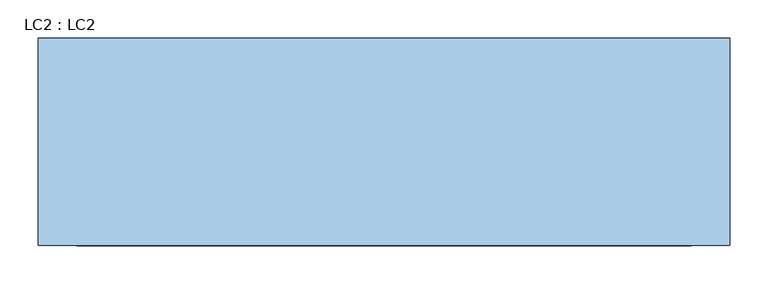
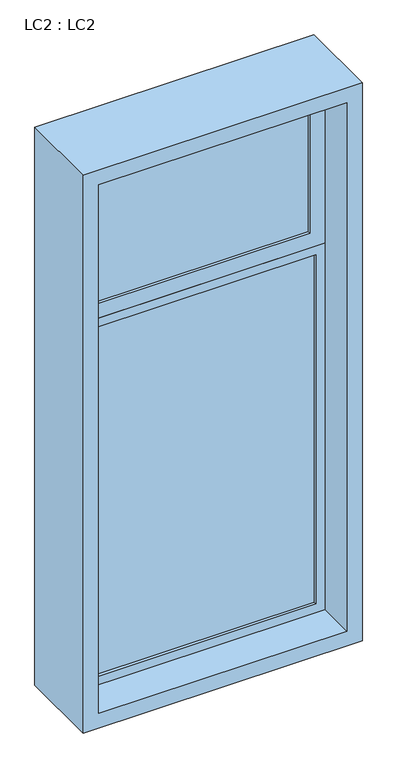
"""IFC4 building model written with IfcOpenShell, lengths in millimetres: window geometry, LC2 : LC2."""

from ifc_helpers import new_model, si_unit, frame, origin, place, context, project, spatial, polyline, outline, extrude, source, transform, mapped, element, save


def lc2_lc2_a0e1ef0e(model_context):
    return source(origin(), model_context, "Body", "SweptSolid", [
        extrude(outline(polyline([(3400.0, 450.0), (3400.0, -450.0), (1500.0, -450.0), (1500.0, 450.0), (3400.0, 450.0)]), holes=[polyline([(3350.0, 400.0), (1550.0, 400.0), (1550.0, -400.0), (3350.0, -400.0), (3350.0, 400.0)])]), frame((0.0, -135.0, 0.0), z_axis=(0.0, 1.0, 0.0), x_axis=(0.0, 0.0, 1.0)), (0.0, 0.0, 1.0), 270.0),
        extrude(outline(polyline([(350.0, -5.2868922), (-350.0, -5.2868922), (-350.0, 4.7131078), (350.0, 4.7131078), (350.0, -5.2868922)])), frame((0.0, 0.0, 2850.0), z_axis=(0.0, 0.0, 1.0), x_axis=(1.0, 0.0, 0.0)), (0.0, 0.0, 1.0), 450.0),
        extrude(outline(polyline([(370.0, -5.2868922), (-370.0, -5.2868922), (-370.0, 4.7131078), (370.0, 4.7131078), (370.0, -5.2868922)])), frame((0.0, 0.0, 1580.0), z_axis=(0.0, 0.0, 1.0), x_axis=(1.0, 0.0, 0.0)), (0.0, 0.0, 1.0), 1190.0),
        extrude(outline(polyline([(3350.0, 400.0), (3350.0, -400.0), (2800.0, -400.0), (2800.0, 400.0), (3350.0, 400.0)]), holes=[polyline([(3300.0, 350.0), (2850.0, 350.0), (2850.0, -350.0), (3300.0, -350.0), (3300.0, 350.0)])]), frame((0.0, -15.0, 0.0), z_axis=(0.0, 1.0, 0.0), x_axis=(0.0, 0.0, 1.0)), (0.0, 0.0, 1.0), 30.0),
        extrude(outline(polyline([(2800.0, 400.0), (2800.0, -400.0), (1550.0, -400.0), (1550.0, 400.0), (2800.0, 400.0)]), holes=[polyline([(2770.0, 370.0), (1580.0, 370.0), (1580.0, -370.0), (2770.0, -370.0), (2770.0, 370.0)])]), frame((0.0, -15.0, 0.0), z_axis=(0.0, 1.0, 0.0), x_axis=(0.0, 0.0, 1.0)), (0.0, 0.0, 1.0), 30.0),
    ])


if __name__ == "__main__":
    model = new_model("IFC4")
    model_context = context("Model", 3, world=origin())
    ifc_project = project(units=[si_unit("LENGTHUNIT", "METRE", prefix="MILLI")], contexts=[model_context])
    site = spatial("IfcSite", under=ifc_project)
    building = spatial("IfcBuilding", under=site)
    placement = place(None, origin())
    lc2_lc2_shape = lc2_lc2_a0e1ef0e(model_context)
    element("IfcWindow", 1, ObjectType="LC2 : LC2", at=placement, inside=building, context=model_context, shape_type="MappedRepresentation", body=[
        mapped(lc2_lc2_shape, transform((0.0, 0.0, 0.0), x_axis=(1.0, 0.0, 0.0), y_axis=(0.0, 1.0, 0.0), z_axis=(0.0, 0.0, 1.0))),
    ])
    save(model, "model.ifc")
